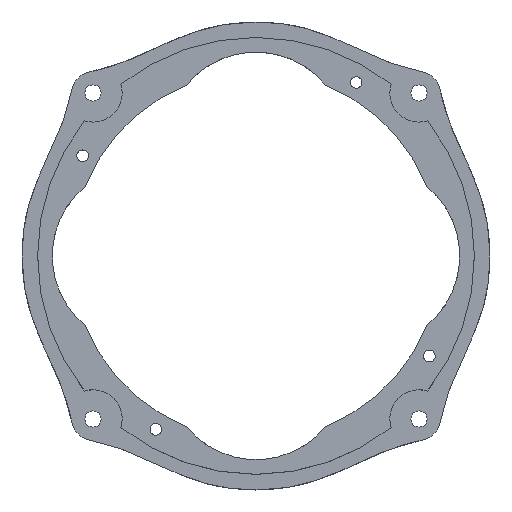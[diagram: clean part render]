
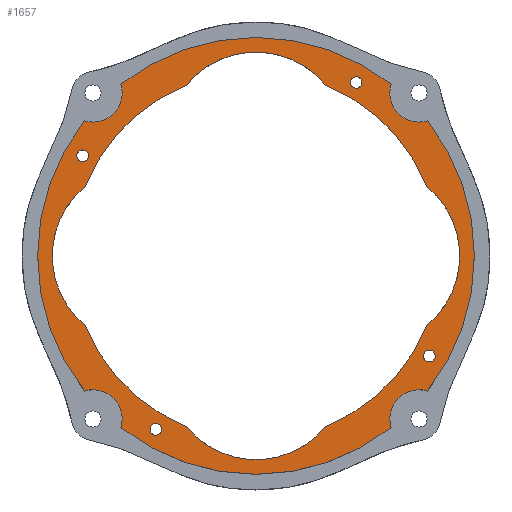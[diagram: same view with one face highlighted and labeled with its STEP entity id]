
A CAD part, top view. The second image highlights one B-rep face of the part: STEP entity #1657.
In plain terms, the highlighted planar face has unit normal (0, 0, 1).
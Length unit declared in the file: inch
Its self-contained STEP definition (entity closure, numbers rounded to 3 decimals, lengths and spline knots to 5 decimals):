
#43=FACE_BOUND('',#330,.T.);
#44=FACE_BOUND('',#331,.T.);
#45=FACE_BOUND('',#332,.T.);
#46=FACE_BOUND('',#333,.T.);
#47=FACE_BOUND('',#334,.T.);
#76=CIRCLE('',#1788,1.39315);
#77=CIRCLE('',#1790,0.45123);
#78=CIRCLE('',#1791,3.375);
#79=CIRCLE('',#1792,0.45123);
#80=CIRCLE('',#1793,3.375);
#81=CIRCLE('',#1794,0.45123);
#82=CIRCLE('',#1795,3.375);
#83=CIRCLE('',#1796,0.45123);
#84=CIRCLE('',#1797,3.375);
#85=CIRCLE('',#1798,2.85);
#86=CIRCLE('',#1799,1.39315);
#87=CIRCLE('',#1800,2.85);
#88=CIRCLE('',#1801,1.39315);
#89=CIRCLE('',#1802,2.85);
#90=CIRCLE('',#1803,1.39315);
#91=CIRCLE('',#1804,2.85);
#92=CIRCLE('',#1805,0.09);
#93=CIRCLE('',#1806,0.09);
#94=CIRCLE('',#1807,0.09);
#95=CIRCLE('',#1808,0.09);
#177=PLANE('',#1789);
#235=FACE_OUTER_BOUND('',#329,.T.);
#329=EDGE_LOOP('',(#1394,#1395,#1396,#1397,#1398,#1399,#1400,#1401));
#330=EDGE_LOOP('',(#1402,#1403,#1404,#1405,#1406,#1407,#1408,#1409));
#331=EDGE_LOOP('',(#1410));
#332=EDGE_LOOP('',(#1411));
#333=EDGE_LOOP('',(#1412));
#334=EDGE_LOOP('',(#1413));
#779=VERTEX_POINT('',#3095);
#780=VERTEX_POINT('',#3097);
#781=VERTEX_POINT('',#3101);
#782=VERTEX_POINT('',#3102);
#783=VERTEX_POINT('',#3104);
#784=VERTEX_POINT('',#3106);
#785=VERTEX_POINT('',#3108);
#786=VERTEX_POINT('',#3110);
#787=VERTEX_POINT('',#3112);
#788=VERTEX_POINT('',#3114);
#789=VERTEX_POINT('',#3117);
#790=VERTEX_POINT('',#3119);
#791=VERTEX_POINT('',#3121);
#792=VERTEX_POINT('',#3123);
#793=VERTEX_POINT('',#3125);
#794=VERTEX_POINT('',#3127);
#795=VERTEX_POINT('',#3130);
#796=VERTEX_POINT('',#3132);
#797=VERTEX_POINT('',#3134);
#798=VERTEX_POINT('',#3136);
#1003=EDGE_CURVE('',#780,#779,#76,.T.);
#1005=EDGE_CURVE('',#781,#782,#77,.T.);
#1006=EDGE_CURVE('',#782,#783,#78,.T.);
#1007=EDGE_CURVE('',#783,#784,#79,.T.);
#1008=EDGE_CURVE('',#784,#785,#80,.T.);
#1009=EDGE_CURVE('',#785,#786,#81,.T.);
#1010=EDGE_CURVE('',#786,#787,#82,.T.);
#1011=EDGE_CURVE('',#787,#788,#83,.T.);
#1012=EDGE_CURVE('',#788,#781,#84,.T.);
#1013=EDGE_CURVE('',#779,#789,#85,.T.);
#1014=EDGE_CURVE('',#789,#790,#86,.T.);
#1015=EDGE_CURVE('',#790,#791,#87,.T.);
#1016=EDGE_CURVE('',#791,#792,#88,.T.);
#1017=EDGE_CURVE('',#792,#793,#89,.T.);
#1018=EDGE_CURVE('',#793,#794,#90,.T.);
#1019=EDGE_CURVE('',#794,#780,#91,.T.);
#1020=EDGE_CURVE('',#795,#795,#92,.T.);
#1021=EDGE_CURVE('',#796,#796,#93,.T.);
#1022=EDGE_CURVE('',#797,#797,#94,.T.);
#1023=EDGE_CURVE('',#798,#798,#95,.T.);
#1394=ORIENTED_EDGE('',*,*,#1005,.T.);
#1395=ORIENTED_EDGE('',*,*,#1006,.T.);
#1396=ORIENTED_EDGE('',*,*,#1007,.T.);
#1397=ORIENTED_EDGE('',*,*,#1008,.T.);
#1398=ORIENTED_EDGE('',*,*,#1009,.T.);
#1399=ORIENTED_EDGE('',*,*,#1010,.T.);
#1400=ORIENTED_EDGE('',*,*,#1011,.T.);
#1401=ORIENTED_EDGE('',*,*,#1012,.T.);
#1402=ORIENTED_EDGE('',*,*,#1003,.T.);
#1403=ORIENTED_EDGE('',*,*,#1013,.T.);
#1404=ORIENTED_EDGE('',*,*,#1014,.T.);
#1405=ORIENTED_EDGE('',*,*,#1015,.T.);
#1406=ORIENTED_EDGE('',*,*,#1016,.T.);
#1407=ORIENTED_EDGE('',*,*,#1017,.T.);
#1408=ORIENTED_EDGE('',*,*,#1018,.T.);
#1409=ORIENTED_EDGE('',*,*,#1019,.T.);
#1410=ORIENTED_EDGE('',*,*,#1020,.T.);
#1411=ORIENTED_EDGE('',*,*,#1021,.T.);
#1412=ORIENTED_EDGE('',*,*,#1022,.T.);
#1413=ORIENTED_EDGE('',*,*,#1023,.T.);
#1657=ADVANCED_FACE('',(#235,#43,#44,#45,#46,#47),#177,.T.);
#1788=AXIS2_PLACEMENT_3D('',#3098,#2124,#2125);
#1789=AXIS2_PLACEMENT_3D('',#3100,#2127,#2128);
#1790=AXIS2_PLACEMENT_3D('',#3103,#2129,#2130);
#1791=AXIS2_PLACEMENT_3D('',#3105,#2131,#2132);
#1792=AXIS2_PLACEMENT_3D('',#3107,#2133,#2134);
#1793=AXIS2_PLACEMENT_3D('',#3109,#2135,#2136);
#1794=AXIS2_PLACEMENT_3D('',#3111,#2137,#2138);
#1795=AXIS2_PLACEMENT_3D('',#3113,#2139,#2140);
#1796=AXIS2_PLACEMENT_3D('',#3115,#2141,#2142);
#1797=AXIS2_PLACEMENT_3D('',#3116,#2143,#2144);
#1798=AXIS2_PLACEMENT_3D('',#3118,#2145,#2146);
#1799=AXIS2_PLACEMENT_3D('',#3120,#2147,#2148);
#1800=AXIS2_PLACEMENT_3D('',#3122,#2149,#2150);
#1801=AXIS2_PLACEMENT_3D('',#3124,#2151,#2152);
#1802=AXIS2_PLACEMENT_3D('',#3126,#2153,#2154);
#1803=AXIS2_PLACEMENT_3D('',#3128,#2155,#2156);
#1804=AXIS2_PLACEMENT_3D('',#3129,#2157,#2158);
#1805=AXIS2_PLACEMENT_3D('',#3131,#2159,#2160);
#1806=AXIS2_PLACEMENT_3D('',#3133,#2161,#2162);
#1807=AXIS2_PLACEMENT_3D('',#3135,#2163,#2164);
#1808=AXIS2_PLACEMENT_3D('',#3137,#2165,#2166);
#2124=DIRECTION('center_axis',(0.,0.,-1.));
#2125=DIRECTION('ref_axis',(0.,-1.,0.));
#2127=DIRECTION('center_axis',(0.,0.,1.));
#2128=DIRECTION('ref_axis',(1.,0.,0.));
#2129=DIRECTION('center_axis',(0.,0.,-1.));
#2130=DIRECTION('ref_axis',(1.,0.,0.));
#2131=DIRECTION('center_axis',(0.,0.,1.));
#2132=DIRECTION('ref_axis',(1.,0.,0.));
#2133=DIRECTION('center_axis',(0.,0.,-1.));
#2134=DIRECTION('ref_axis',(1.,0.,0.));
#2135=DIRECTION('center_axis',(0.,0.,1.));
#2136=DIRECTION('ref_axis',(1.,0.,0.));
#2137=DIRECTION('center_axis',(0.,0.,-1.));
#2138=DIRECTION('ref_axis',(1.,0.,0.));
#2139=DIRECTION('center_axis',(0.,0.,1.));
#2140=DIRECTION('ref_axis',(1.,0.,0.));
#2141=DIRECTION('center_axis',(0.,0.,-1.));
#2142=DIRECTION('ref_axis',(1.,0.,0.));
#2143=DIRECTION('center_axis',(0.,0.,1.));
#2144=DIRECTION('ref_axis',(1.,0.,0.));
#2145=DIRECTION('center_axis',(0.,0.,-1.));
#2146=DIRECTION('ref_axis',(1.,0.,0.));
#2147=DIRECTION('center_axis',(0.,0.,-1.));
#2148=DIRECTION('ref_axis',(-1.,0.,0.));
#2149=DIRECTION('center_axis',(0.,0.,-1.));
#2150=DIRECTION('ref_axis',(1.,0.,0.));
#2151=DIRECTION('center_axis',(0.,0.,-1.));
#2152=DIRECTION('ref_axis',(0.,1.,0.));
#2153=DIRECTION('center_axis',(0.,0.,-1.));
#2154=DIRECTION('ref_axis',(1.,0.,0.));
#2155=DIRECTION('center_axis',(0.,0.,-1.));
#2156=DIRECTION('ref_axis',(1.,0.,0.));
#2157=DIRECTION('center_axis',(0.,0.,-1.));
#2158=DIRECTION('ref_axis',(1.,0.,0.));
#2159=DIRECTION('center_axis',(0.,0.,-1.));
#2160=DIRECTION('ref_axis',(1.,0.,0.));
#2161=DIRECTION('center_axis',(0.,0.,-1.));
#2162=DIRECTION('ref_axis',(1.,0.,0.));
#2163=DIRECTION('center_axis',(0.,0.,-1.));
#2164=DIRECTION('ref_axis',(1.,0.,0.));
#2165=DIRECTION('center_axis',(0.,0.,-1.));
#2166=DIRECTION('ref_axis',(1.,0.,0.));
#3095=CARTESIAN_POINT('',(2.63848,-1.07745,1.));
#3097=CARTESIAN_POINT('',(2.63848,1.07745,1.));
#3098=CARTESIAN_POINT('Origin',(1.75534,0.,
1.));
#3100=CARTESIAN_POINT('Origin',(0.,0.,1.));
#3101=CARTESIAN_POINT('',(-2.08779,2.65175,1.));
#3102=CARTESIAN_POINT('',(-2.65175,2.08779,1.));
#3103=CARTESIAN_POINT('Origin',(-2.51907,2.51907,1.));
#3104=CARTESIAN_POINT('',(-2.65175,-2.08779,1.));
#3105=CARTESIAN_POINT('Origin',(0.,0.,1.));
#3106=CARTESIAN_POINT('',(-2.08779,-2.65175,1.));
#3107=CARTESIAN_POINT('Origin',(-2.51907,-2.51907,1.));
#3108=CARTESIAN_POINT('',(2.08779,-2.65175,1.));
#3109=CARTESIAN_POINT('Origin',(0.,0.,1.));
#3110=CARTESIAN_POINT('',(2.65175,-2.08779,1.));
#3111=CARTESIAN_POINT('Origin',(2.51907,-2.51907,1.));
#3112=CARTESIAN_POINT('',(2.65175,2.08779,1.));
#3113=CARTESIAN_POINT('Origin',(0.,0.,1.));
#3114=CARTESIAN_POINT('',(2.08779,2.65175,1.));
#3115=CARTESIAN_POINT('Origin',(2.51907,2.51907,1.));
#3116=CARTESIAN_POINT('Origin',(0.,0.,1.));
#3117=CARTESIAN_POINT('',(1.07745,-2.63848,1.));
#3118=CARTESIAN_POINT('Origin',(0.,0.,1.));
#3119=CARTESIAN_POINT('',(-1.07745,-2.63848,1.));
#3120=CARTESIAN_POINT('Origin',(0.,-1.75534,
1.));
#3121=CARTESIAN_POINT('',(-2.63848,-1.07745,1.));
#3122=CARTESIAN_POINT('Origin',(0.,0.,1.));
#3123=CARTESIAN_POINT('',(-2.63848,1.07745,1.));
#3124=CARTESIAN_POINT('Origin',(-1.75534,0.,
1.));
#3125=CARTESIAN_POINT('',(-1.07745,2.63848,1.));
#3126=CARTESIAN_POINT('Origin',(0.,0.,1.));
#3127=CARTESIAN_POINT('',(1.07745,2.63848,1.));
#3128=CARTESIAN_POINT('Origin',(0.,1.75534,1.));
#3129=CARTESIAN_POINT('Origin',(0.,0.,1.));
#3130=CARTESIAN_POINT('',(-1.63688,-2.67927,1.));
#3131=CARTESIAN_POINT('Origin',(-1.54688,-2.67927,1.));
#3132=CARTESIAN_POINT('',(-2.76927,1.54688,1.));
#3133=CARTESIAN_POINT('Origin',(-2.67927,1.54688,1.));
#3134=CARTESIAN_POINT('',(2.58927,-1.54688,1.));
#3135=CARTESIAN_POINT('Origin',(2.67927,-1.54688,1.));
#3136=CARTESIAN_POINT('',(1.45688,2.67927,1.));
#3137=CARTESIAN_POINT('Origin',(1.54688,2.67927,1.));
